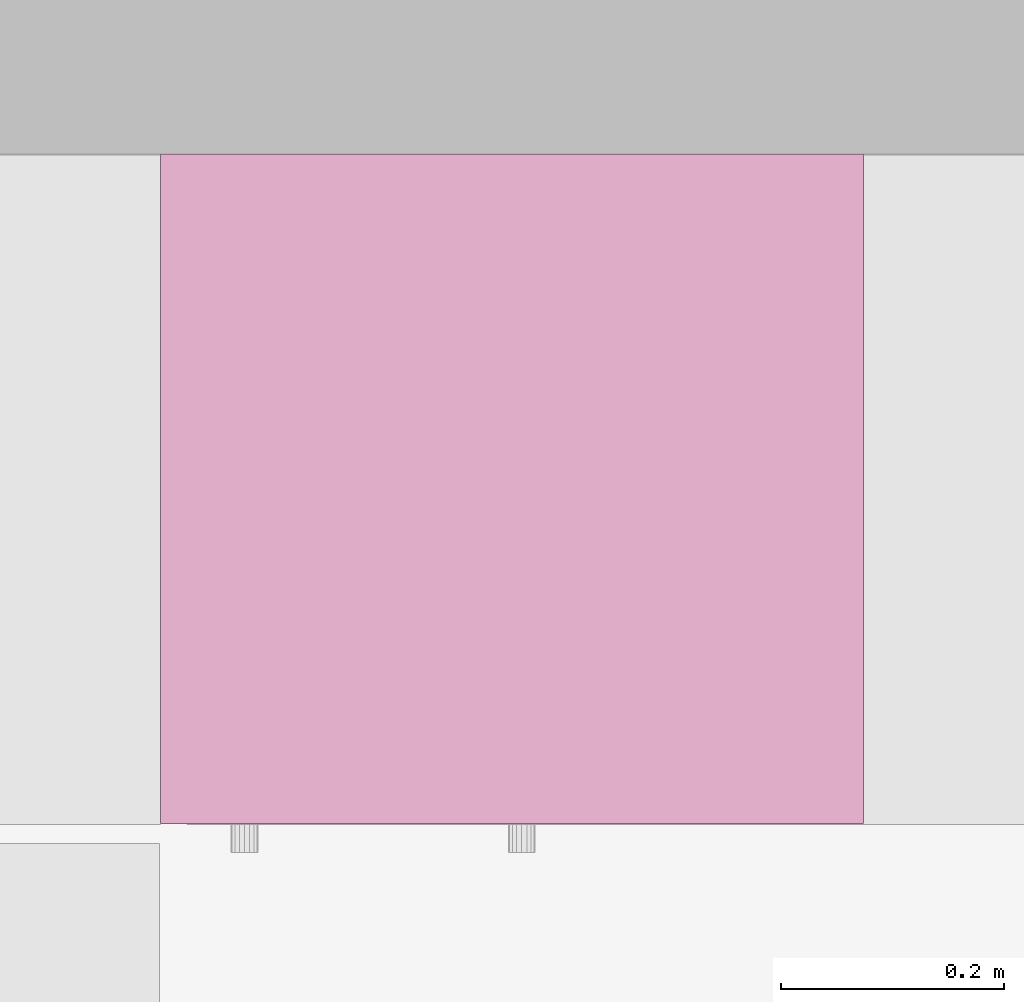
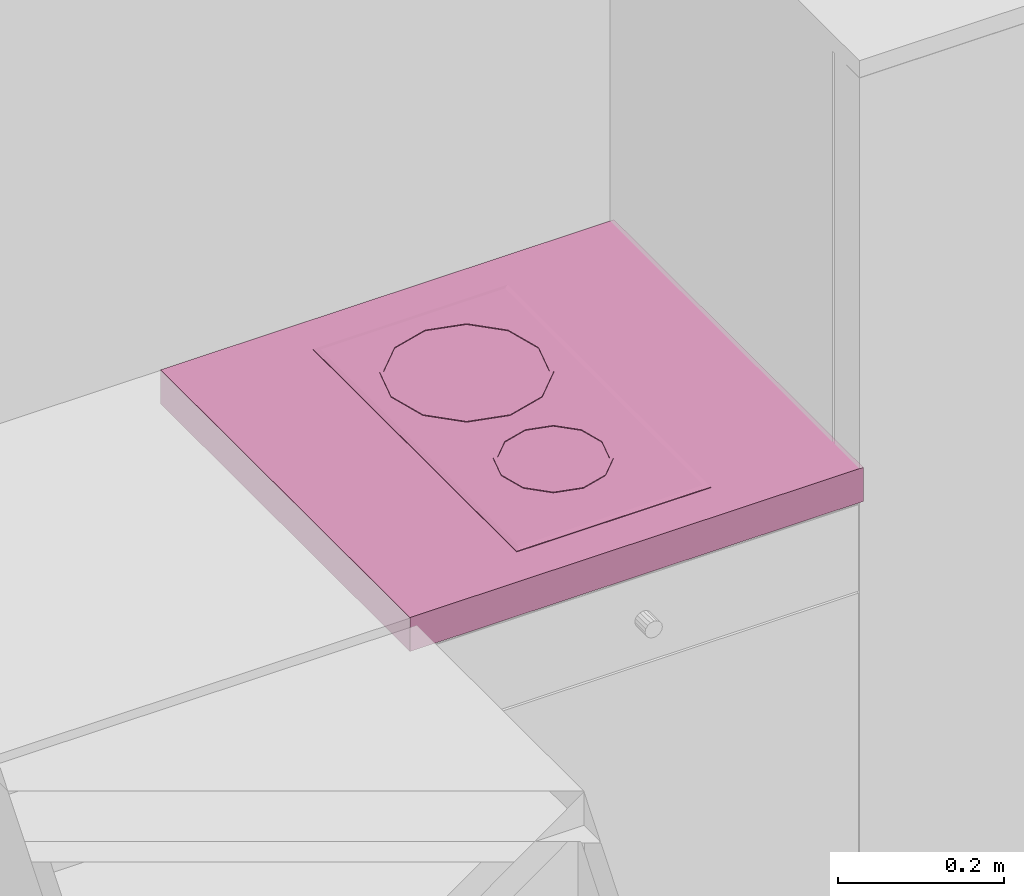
# One storey, part 155 of 165: 1 furnishing.
"""IFC2X3 building model written with IfcOpenShell, lengths in millimetres."""

from ifc_helpers import new_model, entity, si_unit, converted_unit, money_unit, direction, frame, origin_with_axes, place, context, subcontext, project, spatial, faceted_brep, source, transform, mapped, material, material_list, type_object, element, save


model = new_model("IFC2X3")

# Units and contexts
model_context = context("Model", 3, precision=1e-05, world=origin_with_axes(), true_north=direction((0.0, 1.0)))
body_context = subcontext(model_context, "Body", "Model", "MODEL_VIEW")
ifc_project = project(units=[si_unit("LENGTHUNIT", "METRE", prefix="MILLI"), si_unit("AREAUNIT", "SQUARE_METRE"), si_unit("VOLUMEUNIT", "CUBIC_METRE"), converted_unit("PLANEANGLEUNIT", "DEGREE", entity("IfcPlaneAngleMeasure", 0.0174532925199), si_unit("PLANEANGLEUNIT", "RADIAN"), dimensions=[0, 0, 0, 0, 0, 0, 0]), si_unit("SOLIDANGLEUNIT", "STERADIAN"), money_unit("USD"), converted_unit("TIMEUNIT", "Year", entity("IfcTimeMeasure", 31556926.0), si_unit("TIMEUNIT", "SECOND"), dimensions=[0, 0, 0, 0, 0, 0, 0]), si_unit("MASSUNIT", "GRAM"), si_unit("THERMODYNAMICTEMPERATUREUNIT", "DEGREE_CELSIUS"), si_unit("LUMINOUSINTENSITYUNIT", "LUMEN")], contexts=[model_context])

# Site, building, storey
site_placement = place(None, origin_with_axes())
site = spatial("IfcSite", under=ifc_project, at=site_placement, Name="Site", CompositionType="ELEMENT")
building_placement = place(site_placement, origin_with_axes())
building = spatial("IfcBuilding", under=site, at=building_placement, Name="Building", CompositionType="ELEMENT")
storey_placement = place(building_placement, frame((0.0, 0.0, 6300.0), z_axis=(0.0, 0.0, 1.0), x_axis=(1.0, 0.0, 0.0)))
storey = spatial("IfcBuildingStorey", under=building, at=storey_placement, Name="4KORRUS", CompositionType="ELEMENT", Elevation=6300.0)

# Furnishing
ifc_material = material(Name="Background")
ifc_material_list = material_list([ifc_material])
furnishing_element_type = type_object("IfcFurnishingElementType", Name="Built-in Cooktops 19")
shared_shape = source(origin_with_axes(), body_context, "Body", "Brep", [
    faceted_brep([(0.0, 0.0, 850.0), (0.0, 0.0, 900.0), (-629.977, 0.0, 900.0), (-629.977, 0.0, 850.0), (0.0, 600.0, 850.0), (0.0, 600.0, 900.0), (-629.977, 600.0, 900.0), (-629.977, 600.0, 850.0)], [[[0, 1, 2, 3]], [[4, 5, 1, 0]], [[1, 5, 6, 2]], [[3, 2, 6, 7]], [[0, 3, 7, 4]], [[7, 6, 5, 4]]]),
    faceted_brep([(-179.989, 55.0, 900.0), (-449.989, 55.0, 900.0), (-449.989, 545.0, 900.0), (-179.989, 545.0, 900.0), (-179.989, 55.0, 900.8), (-449.989, 55.0, 900.8), (-449.989, 545.0, 900.8), (-179.989, 545.0, 900.8), (-186.794, 61.806, 902.0), (-443.183, 61.806, 902.0), (-443.183, 538.194, 902.0), (-186.794, 538.194, 902.0)], [[[0, 1, 2, 3]], [[0, 4, 5, 1]], [[1, 5, 6, 2]], [[2, 6, 7, 3]], [[3, 7, 4, 0]], [[4, 8, 9, 5]], [[5, 9, 10, 6]], [[6, 10, 11, 7]], [[7, 11, 8, 4]], [[10, 9, 8, 11]]]),
    faceted_brep([(-209.989, 409.27, 902.0), (-209.989, 409.27, 903.0), (-224.056, 356.77, 903.0), (-224.056, 356.77, 902.0), (-224.056, 461.77, 902.0), (-224.056, 461.77, 903.0), (-262.489, 500.203, 903.0), (-314.989, 514.27, 903.0), (-367.489, 500.203, 903.0), (-405.921, 461.77, 903.0), (-419.989, 409.27, 903.0), (-405.921, 356.77, 903.0), (-367.489, 318.337, 903.0), (-314.989, 304.27, 903.0), (-262.489, 318.337, 903.0), (-214.989, 409.27, 903.0), (-228.386, 359.27, 903.0), (-264.989, 322.667, 903.0), (-314.989, 309.27, 903.0), (-364.989, 322.667, 903.0), (-401.591, 359.27, 903.0), (-414.989, 409.27, 903.0), (-401.591, 459.27, 903.0), (-364.989, 495.873, 903.0), (-314.989, 509.27, 903.0), (-264.989, 495.873, 903.0), (-228.386, 459.27, 903.0), (-262.489, 318.337, 902.0), (-314.989, 304.27, 902.0), (-367.489, 318.337, 902.0), (-405.921, 356.77, 902.0), (-419.989, 409.27, 902.0), (-405.921, 461.77, 902.0), (-367.489, 500.203, 902.0), (-314.989, 514.27, 902.0), (-262.489, 500.203, 902.0), (-214.989, 409.27, 902.0), (-228.386, 459.27, 902.0), (-264.989, 495.873, 902.0), (-314.989, 509.27, 902.0), (-364.989, 495.873, 902.0), (-401.591, 459.27, 902.0), (-414.989, 409.27, 902.0), (-401.591, 359.27, 902.0), (-364.989, 322.667, 902.0), (-314.989, 309.27, 902.0), (-264.989, 322.667, 902.0), (-228.386, 359.27, 902.0)], [[[0, 1, 2, 3]], [[4, 5, 1, 0]], [[1, 5, 6, 7, 8, 9, 10, 11, 12, 13, 14, 2], [15, 16, 17, 18, 19, 20, 21, 22, 23, 24, 25, 26]], [[3, 2, 14, 27]], [[0, 3, 27, 28, 29, 30, 31, 32, 33, 34, 35, 4], [36, 37, 38, 39, 40, 41, 42, 43, 44, 45, 46, 47]], [[35, 6, 5, 4]], [[34, 7, 6, 35]], [[33, 8, 7, 34]], [[32, 9, 8, 33]], [[31, 10, 9, 32]], [[30, 11, 10, 31]], [[29, 12, 11, 30]], [[28, 13, 12, 29]], [[27, 14, 13, 28]], [[47, 16, 15, 36]], [[46, 17, 16, 47]], [[45, 18, 17, 46]], [[44, 19, 18, 45]], [[43, 20, 19, 44]], [[42, 21, 20, 43]], [[41, 22, 21, 42]], [[40, 23, 22, 41]], [[39, 24, 23, 40]], [[38, 25, 24, 39]], [[37, 26, 25, 38]], [[36, 15, 26, 37]]]),
    faceted_brep([(-242.489, 200.53, 902.0), (-242.489, 200.53, 903.0), (-252.202, 164.28, 903.0), (-252.202, 164.28, 902.0), (-252.202, 236.78, 902.0), (-252.202, 236.78, 903.0), (-278.739, 263.317, 903.0), (-314.989, 273.03, 903.0), (-351.239, 263.317, 903.0), (-377.775, 236.78, 903.0), (-387.489, 200.53, 903.0), (-377.775, 164.28, 903.0), (-351.239, 137.743, 903.0), (-314.989, 128.03, 903.0), (-278.739, 137.743, 903.0), (-247.489, 200.53, 903.0), (-256.532, 166.78, 903.0), (-281.239, 142.073, 903.0), (-314.989, 133.03, 903.0), (-348.739, 142.073, 903.0), (-373.445, 166.78, 903.0), (-382.489, 200.53, 903.0), (-373.445, 234.28, 903.0), (-348.739, 258.987, 903.0), (-314.989, 268.03, 903.0), (-281.239, 258.987, 903.0), (-256.532, 234.28, 903.0), (-278.739, 137.743, 902.0), (-314.989, 128.03, 902.0), (-351.239, 137.743, 902.0), (-377.775, 164.28, 902.0), (-387.489, 200.53, 902.0), (-377.775, 236.78, 902.0), (-351.239, 263.317, 902.0), (-314.989, 273.03, 902.0), (-278.739, 263.317, 902.0), (-247.489, 200.53, 902.0), (-256.532, 234.28, 902.0), (-281.239, 258.987, 902.0), (-314.989, 268.03, 902.0), (-348.739, 258.987, 902.0), (-373.445, 234.28, 902.0), (-382.489, 200.53, 902.0), (-373.445, 166.78, 902.0), (-348.739, 142.073, 902.0), (-314.989, 133.03, 902.0), (-281.239, 142.073, 902.0), (-256.532, 166.78, 902.0)], [[[0, 1, 2, 3]], [[4, 5, 1, 0]], [[1, 5, 6, 7, 8, 9, 10, 11, 12, 13, 14, 2], [15, 16, 17, 18, 19, 20, 21, 22, 23, 24, 25, 26]], [[3, 2, 14, 27]], [[0, 3, 27, 28, 29, 30, 31, 32, 33, 34, 35, 4], [36, 37, 38, 39, 40, 41, 42, 43, 44, 45, 46, 47]], [[35, 6, 5, 4]], [[34, 7, 6, 35]], [[33, 8, 7, 34]], [[32, 9, 8, 33]], [[31, 10, 9, 32]], [[30, 11, 10, 31]], [[29, 12, 11, 30]], [[28, 13, 12, 29]], [[27, 14, 13, 28]], [[47, 16, 15, 36]], [[46, 17, 16, 47]], [[45, 18, 17, 46]], [[44, 19, 18, 45]], [[43, 20, 19, 44]], [[42, 21, 20, 43]], [[41, 22, 21, 42]], [[40, 23, 22, 41]], [[39, 24, 23, 40]], [[38, 25, 24, 39]], [[37, 26, 25, 38]], [[36, 15, 26, 37]]]),
])
furnishing_placement = place(storey_placement, frame((-34759.4856986, -9966.37850445, 0.0), z_axis=(0.0, 0.0, 1.0), x_axis=(1.0, 0.0, 0.0)))
element("IfcFurnishingElement", 1, at=furnishing_placement, inside=storey, type_object=furnishing_element_type, material=ifc_material_list, Name="FU - 007", context=body_context, shape_type="MappedRepresentation", body=[
    mapped(shared_shape, transform((0.0, 0.0, 0.0))),
])

save(model, "model.ifc")
